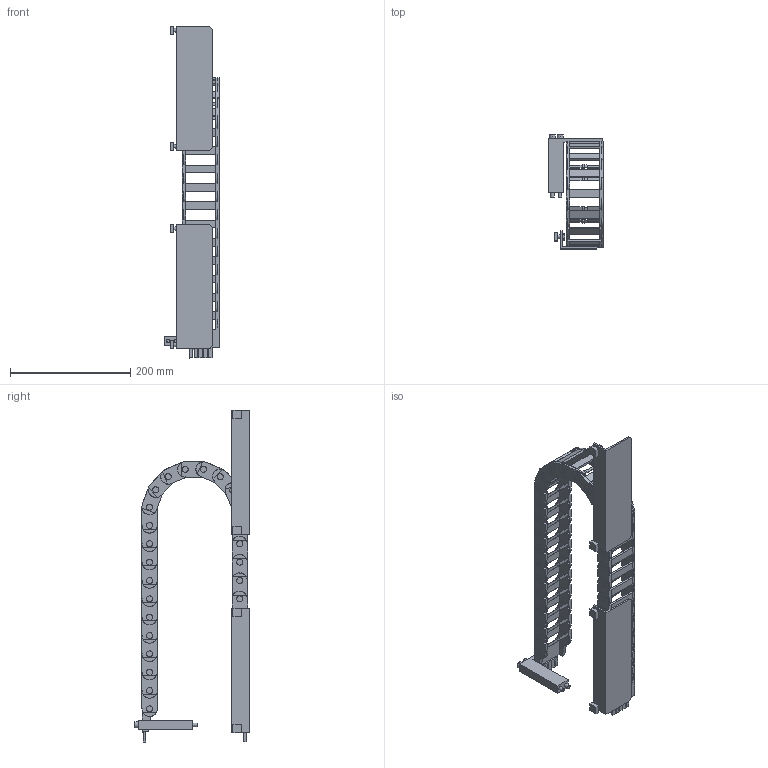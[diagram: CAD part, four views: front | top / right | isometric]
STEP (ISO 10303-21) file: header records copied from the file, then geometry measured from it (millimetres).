
FILE_DESCRIPTION( ( 'STEP AP214' ), '1' );
FILE_NAME( 'U:/Etudes/Top Solid/BIBLIO 3D AVM/STEP/STEP2007LINMOT/8319337.step', '2007-06-07T08:48:03', ( ' ' ), ( ' ' ), 'XStep 1.0', ' ', ' ' );
FILE_SCHEMA( ( 'automotive_design' ) );
Length unit declared in the file: metre
Products named in the file (32): 1; 2; 3; 4; 5; 6; 7; 8; 9; 10; 11; 12; 13; 14; 15; 16; 17; 18; 19; 20; 21; 22; 23; 24; 25; 26; 27; 28; 29; 30; 31; 32
Bounding box: 91 x 190 x 552 mm (x, y, z)
Volume: 503093.7 mm3; surface area: 357512 mm2
Topology: 32 solids, 34 shells, 2464 faces, 6943 edges, 4629 vertices
Faces by surface type: plane 1867, cylinder 595, cone 2
Full cylindrical faces by diameter (mm): 6 x12, 6.2 x4, 6.5 x2, 10 x2
Entity records: 99816 total; most frequent: CARTESIAN_POINT 14142, ORIENTED_EDGE 13806, DIRECTION 13543, EDGE_CURVE 6903, LINE 5247, VECTOR 5247, VERTEX_POINT 4611, AXIS2_PLACEMENT_3D 4148
